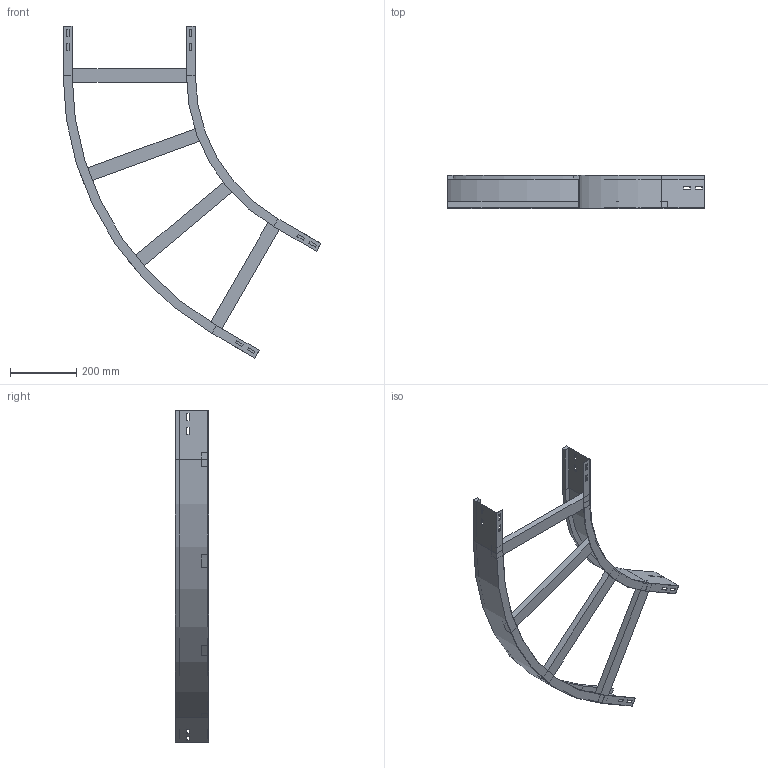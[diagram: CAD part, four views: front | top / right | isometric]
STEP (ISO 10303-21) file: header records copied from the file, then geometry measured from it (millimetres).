
FILE_DESCRIPTION (( 'STEP AP214' ), '1' );
FILE_NAME ('13B5D400.step', '2025-02-21T15:17:10', ( '' ), ( '' ), 'SwSTEP 2.0', 'SolidWorks 2023', '' );
FILE_SCHEMA (( 'AUTOMOTIVE_DESIGN' ));
Length unit declared in the file: millimetre
Products named in the file (4): A2_LONGH.ESTERNO 60°_H100_R500+400; TRAVERSINO_400; 13B5D400; A2_LONGH.INTERNO 60°_H100_R500
Assembly tree (6 placements, depth 2):
  13B5D400
    A2_LONGH.INTERNO 60°_H100_R500
    A2_LONGH.ESTERNO 60°_H100_R500+400
    TRAVERSINO_400  x4
Bounding box: 779.9 x 100 x 1004.42 mm (x, y, z)
Volume: 2191317.8 mm3; surface area: 787737.9 mm2
Topology: 6 solids, 6 shells, 140 faces, 352 edges, 224 vertices
Faces by surface type: plane 132, cylinder 8
Entity records: 3829 total; most frequent: CARTESIAN_POINT 647, ORIENTED_EDGE 632, DIRECTION 594, EDGE_CURVE 316, VECTOR 300, LINE 300, VERTEX_POINT 200, EDGE_LOOP 154
